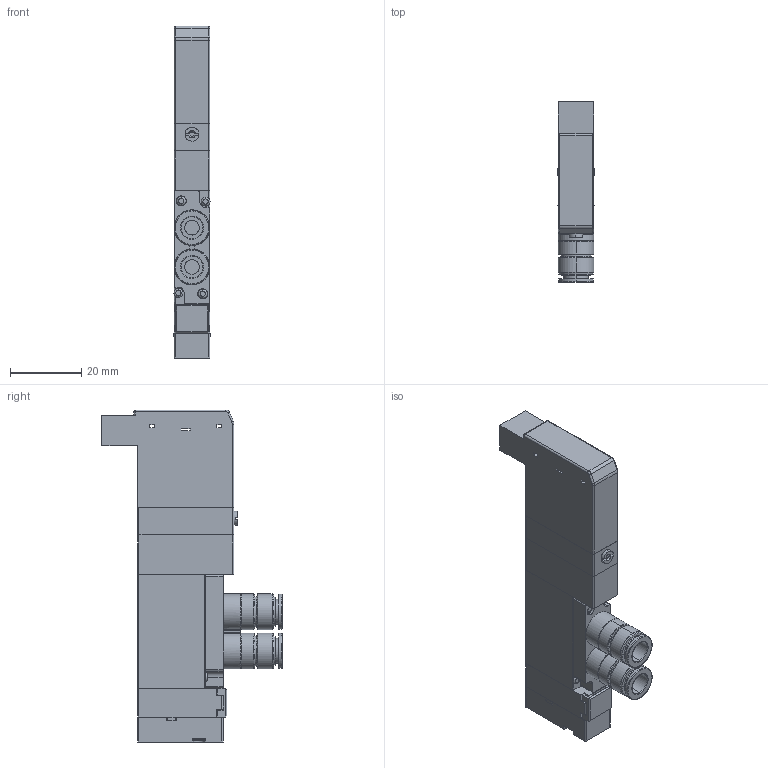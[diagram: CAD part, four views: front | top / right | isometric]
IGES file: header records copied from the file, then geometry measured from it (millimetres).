
Start section: ------------------------------------------------------------------------
Global section: file name: D:\ICADMX\tmp\trans3d_spg\CVICAD02.18204.F10T1-FJ_8520.igs; native system: spGate; preprocessor: ver12.6.6; author: Unknown; organization: Unknown; date: 200901.142411; units: millimetre
Bounding box: 10.2 x 50.5 x 93 mm (x, y, z)
Volume: 26173.1 mm3; surface area: 12753 mm2
Topology: 7 solids, 7 shells, 361 faces, 884 edges, 562 vertices
Faces by surface type: bspline 361
